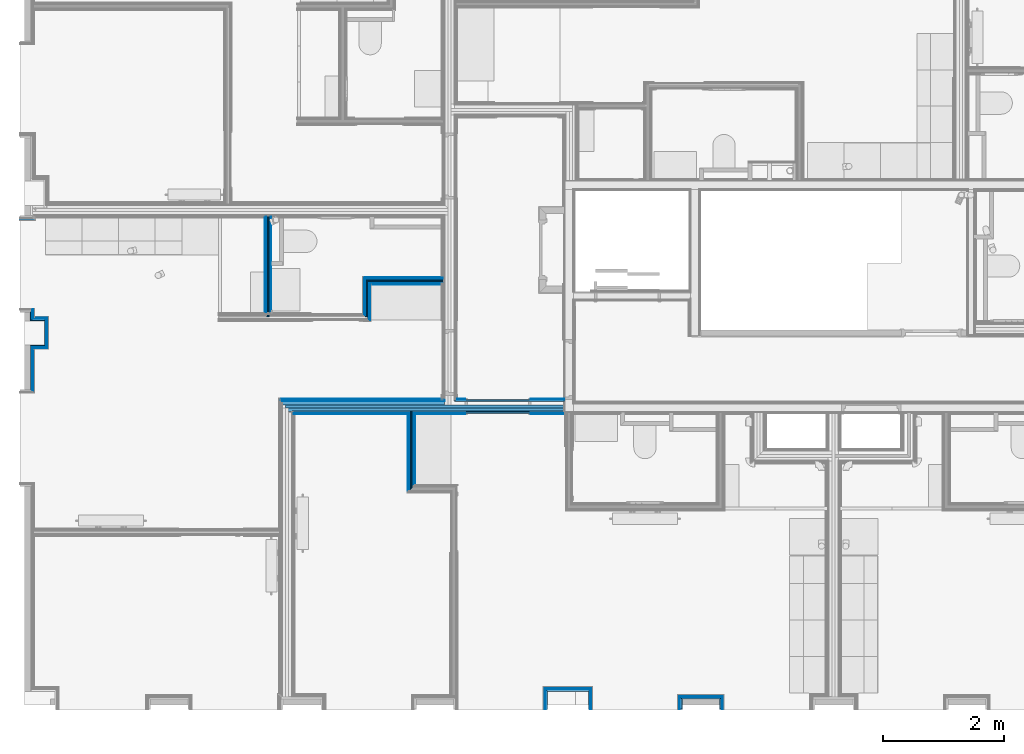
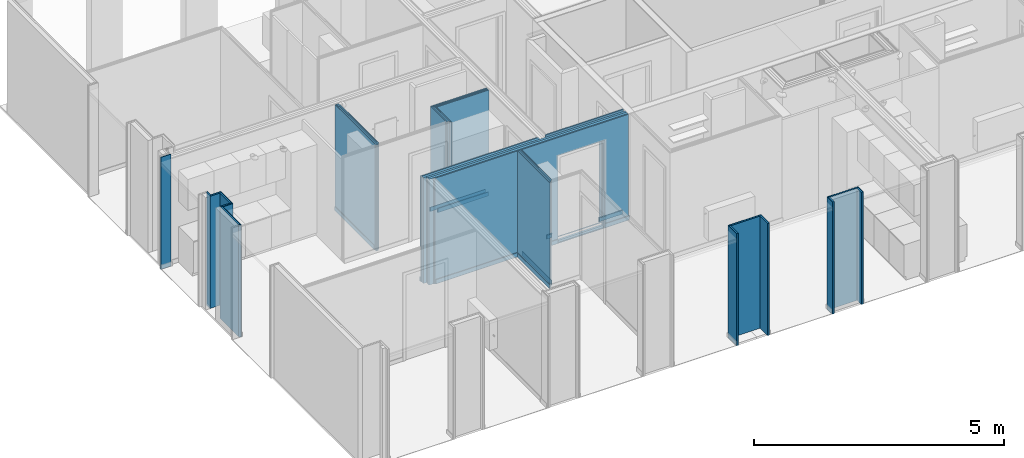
# One storey, part 9 of 85: 61 building element parts, 1 opening, 17 elements without a shape of their own.
"""IFC2X3 building model written with IfcOpenShell, lengths in metres."""

import ifcopenshell
import ifcopenshell.guid

model = None  # the IFC model being written
_history = None  # IfcOwnerHistory: only IFC2X3 demands one
_inside = {}  # id of a spatial element -> (the spatial element, [elements in it])
_under = {}  # id of a project, library or spatial element -> (it, [spatial elements below it])
_declared = {}  # id of a project -> (the project, [libraries it declares])
_typed = {}  # id of a type object -> (the type object, [elements of that type])
_made_of = {}  # id of a material, layer set ... -> (it, [elements and type objects made of it])


def new_model(schema):
    """Start an empty IFC model of exactly this schema.

    Asked for "IFC4X3", IfcOpenShell would pick the latest addendum, in which some entities
    have other attributes; the version numbers below select the first issue.
    IFC2X3 requires an IfcOwnerHistory on every rooted entity: one is made here for all.
    """
    global model, _history
    if schema == "IFC4X3":
        model = ifcopenshell.file(schema_version=(4, 3, 0, 0))
    else:
        model = ifcopenshell.file(schema=schema)
    _inside.clear()
    _under.clear()
    _declared.clear()
    _typed.clear()
    _made_of.clear()
    _history = None
    if model.schema == "IFC2X3":
        org = make("IfcOrganization", Name="unknown")
        user = make(
            "IfcPersonAndOrganization",
            ThePerson=make("IfcPerson", FamilyName="unknown"),
            TheOrganization=org,
        )
        app = make(
            "IfcApplication",
            ApplicationDeveloper=org,
            Version="unknown",
            ApplicationFullName="unknown",
            ApplicationIdentifier="unknown",
        )
        _history = make(
            "IfcOwnerHistory",
            OwningUser=user,
            OwningApplication=app,
            ChangeAction="ADDED",
            CreationDate=0,
        )
    return model


def make(cls, **values):
    """One entity of the class cls with the attributes given. An attribute that is None is left unset."""
    return model.create_entity(
        cls, **{name: value for name, value in values.items() if value is not None}
    )


def entity(cls, *values):
    """Any entity or typed value of the class cls, its attributes in the order of the schema. None: left unset."""
    e = model.create_entity(cls)
    for i, value in enumerate(values):
        if value is not None:
            e[i] = value
    return e


def rooted(cls, **values):
    """An entity with a GlobalId (a new one), such as an element, a storey or a relation."""
    return make(cls, GlobalId=ifcopenshell.guid.new(), OwnerHistory=_history, **values)


def si_unit(unit_type, name, prefix=None):
    """IfcSIUnit, for example si_unit("LENGTHUNIT", "METRE", prefix="MILLI")."""
    return make("IfcSIUnit", UnitType=unit_type, Prefix=prefix, Name=name)


def converted_unit(unit_type, name, factor, base, dimensions=None, offset=None):
    """IfcConversionBasedUnit, such as the inch: factor (a typed value) times the base unit."""
    return make(
        "IfcConversionBasedUnit"
        if offset is None
        else "IfcConversionBasedUnitWithOffset",
        ConversionOffset=offset,
        Dimensions=None
        if dimensions is None
        else entity("IfcDimensionalExponents", *dimensions),
        UnitType=unit_type,
        Name=name,
        ConversionFactor=make(
            "IfcMeasureWithUnit", ValueComponent=factor, UnitComponent=base
        ),
    )


def derived_unit(unit_type, elements):
    """IfcDerivedUnit: a product of units, each with its exponent."""
    return make(
        "IfcDerivedUnit",
        Elements=[
            make("IfcDerivedUnitElement", Unit=unit, Exponent=power)
            for unit, power in elements
        ],
        UnitType=unit_type,
    )


def money_unit(currency):
    """IfcMonetaryUnit."""
    return make("IfcMonetaryUnit", Currency=currency)


def assignment(units):
    """IfcUnitAssignment: the units of a project."""
    return None if units is None else make("IfcUnitAssignment", Units=units)


def point(xyz):
    """IfcCartesianPoint."""
    return None if xyz is None else make("IfcCartesianPoint", Coordinates=xyz)


def direction(xyz):
    """IfcDirection."""
    return None if xyz is None else make("IfcDirection", DirectionRatios=xyz)


def frame(location, z_axis=None, x_axis=None):
    """IfcAxis2Placement3D, a coordinate frame: its origin and axes. An axis left out is left unset."""
    return make(
        "IfcAxis2Placement3D",
        Location=point(location),
        Axis=direction(z_axis),
        RefDirection=direction(x_axis),
    )


def frame_2d(location, x_axis=None):
    """IfcAxis2Placement2D, a coordinate frame in the plane: its origin and x axis."""
    return make(
        "IfcAxis2Placement2D", Location=point(location), RefDirection=direction(x_axis)
    )


def origin_with_axes():
    """The frame at (0, 0, 0) with the z axis (0, 0, 1) and the x axis (1, 0, 0) written out."""
    return frame((0.0, 0.0, 0.0), z_axis=(0.0, 0.0, 1.0), x_axis=(1.0, 0.0, 0.0))


def place(relative_to, where):
    """IfcLocalPlacement: puts the frame where relative to a parent placement (None: the world)."""
    return make(
        "IfcLocalPlacement", PlacementRelTo=relative_to, RelativePlacement=where
    )


def context(
    kind, dimensions, precision=None, world=None, true_north=None, identifier=None
):
    """IfcGeometricRepresentationContext, for example the 3D "Model" context."""
    return make(
        "IfcGeometricRepresentationContext",
        ContextIdentifier=identifier,
        ContextType=kind,
        CoordinateSpaceDimension=dimensions,
        Precision=precision,
        WorldCoordinateSystem=world,
        TrueNorth=true_north,
    )


def subcontext(parent, identifier, kind, view, scale=None):
    """IfcGeometricRepresentationSubContext, for example "Body" below "Model"."""
    return make(
        "IfcGeometricRepresentationSubContext",
        ContextIdentifier=identifier,
        ContextType=kind,
        ParentContext=parent,
        TargetScale=scale,
        TargetView=view,
    )


def project(units=None, contexts=None):
    """IfcProject with its units and contexts."""
    return rooted(
        "IfcProject",
        Name="project",
        RepresentationContexts=contexts,
        UnitsInContext=assignment(units),
    )


def spatial(cls, under=None, at=None, **own):
    """A site, building, storey or space (cls), placed at a placement, below another one or the project."""
    s = rooted(cls, ObjectPlacement=at, **own)
    if under is not None:
        _under.setdefault(under.id(), (under, []))[1].append(s)
    return s


def polyline(points):
    """IfcPolyline through the points."""
    return make("IfcPolyline", Points=[point(p) for p in points])


def profile(cls, at=None, kind="AREA", **sizes):
    """A parametric profile (cls). Its sizes go by their IFC names, for example OverallWidth=200.0."""
    return make(cls, ProfileType=kind, Position=at, **sizes)


def rectangle(**sizes):
    """IfcRectangleProfileDef."""
    return profile("IfcRectangleProfileDef", **sizes)


def outline(outer, holes=None, kind="AREA"):
    """IfcArbitraryClosedProfileDef: a profile drawn as a closed curve; with holes, ...WithVoids."""
    if holes is None:
        return make("IfcArbitraryClosedProfileDef", ProfileType=kind, OuterCurve=outer)
    return make(
        "IfcArbitraryProfileDefWithVoids",
        ProfileType=kind,
        OuterCurve=outer,
        InnerCurves=holes,
    )


def extrude(swept, where, along, depth):
    """IfcExtrudedAreaSolid: the profile swept, set in the frame where, extruded along a direction by depth."""
    return make(
        "IfcExtrudedAreaSolid",
        SweptArea=swept,
        Position=where,
        ExtrudedDirection=direction(along),
        Depth=depth,
    )


def shape(context_of_items, identifier, shape_type, items):
    """IfcShapeRepresentation: the items that make up one representation, for example the "Body"."""
    return make(
        "IfcShapeRepresentation",
        ContextOfItems=context_of_items,
        RepresentationIdentifier=identifier,
        RepresentationType=shape_type,
        Items=items,
    )


def material(Name=None, Category=None):
    """IfcMaterial."""
    return make("IfcMaterial", Name=Name, Category=Category)


def made_of(thing, what):
    """Note that an element or type object is made of a material, layer set ...; save() writes the relation."""
    if what is not None:
        _made_of.setdefault(what.id(), (what, []))[1].append(thing)
    return thing


def type_object(cls, material=None, **own):
    """A type object (cls), such as IfcWallType, which elements share."""
    return made_of(rooted(cls, **own), material)


def element(
    cls,
    number,
    at=None,
    inside=None,
    cuts=None,
    type_object=None,
    material=None,
    context=None,
    identifier="Body",
    shape_type=None,
    held_by="IfcProductDefinitionShape",
    body=None,
    shapes=None,
    **own,
):
    """One element of the class cls, such as IfcWall. Its Tag is "e" and its number.

    at: its placement. inside: the storey or other place that contains it. cuts: it is an
    opening in that element (IfcRelVoidsElement). A single representation is given by context,
    identifier, shape_type and body (its items); several are given by shapes. held_by: the class
    of the entity that holds the representations. save() writes the other relations.
    """
    e = rooted(cls, Tag="e%d" % number, ObjectPlacement=at, **own)
    if body is not None:
        shapes = [shape(context, identifier, shape_type, body)]
    if shapes is not None:
        e.Representation = make(held_by, Representations=shapes)
    if inside is not None:
        _inside.setdefault(inside.id(), (inside, []))[1].append(e)
    if cuts is not None:
        rooted(
            "IfcRelVoidsElement", RelatingBuildingElement=cuts, RelatedOpeningElement=e
        )
    if type_object is not None:
        _typed.setdefault(type_object.id(), (type_object, []))[1].append(e)
    return made_of(e, material)


def aggregate(whole, parts):
    """IfcRelAggregates: a whole, such as a stair, and the parts it consists of."""
    return rooted("IfcRelAggregates", RelatingObject=whole, RelatedObjects=parts)


def save(model, path):
    """Write the relations noted so far, then the file.

    IfcRelAggregates (storeys below a building ...), IfcRelContainedInSpatialStructure (elements
    in a storey), IfcRelDefinesByType, IfcRelAssociatesMaterial and IfcRelDeclares: one each for
    every whole, place, type object, material and project.
    """
    for whole, parts in _under.values():
        aggregate(whole, parts)
    for where, things in _inside.values():
        rooted(
            "IfcRelContainedInSpatialStructure",
            RelatedElements=things,
            RelatingStructure=where,
        )
    for kind, things in _typed.values():
        rooted("IfcRelDefinesByType", RelatedObjects=things, RelatingType=kind)
    for what, things in _made_of.values():
        rooted("IfcRelAssociatesMaterial", RelatedObjects=things, RelatingMaterial=what)
    for by, libraries in _declared.values():
        rooted("IfcRelDeclares", RelatingContext=by, RelatedDefinitions=libraries)
    model.write(path)


model = new_model("IFC2X3")

# Units and contexts
model_context = context("Model", 3, precision=1e-05, world=origin_with_axes(), true_north=direction((0.0, 1.0)))
body_context = subcontext(model_context, "Body", "Model", "MODEL_VIEW", scale=1.0)
ifc_project = project(units=[si_unit("LENGTHUNIT", "METRE"), si_unit("AREAUNIT", "SQUARE_METRE"), si_unit("VOLUMEUNIT", "CUBIC_METRE"), si_unit("ABSORBEDDOSEUNIT", "GRAY"), si_unit("AMOUNTOFSUBSTANCEUNIT", "MOLE"), si_unit("DOSEEQUIVALENTUNIT", "SIEVERT"), si_unit("ELECTRICCAPACITANCEUNIT", "FARAD"), si_unit("ELECTRICCHARGEUNIT", "COULOMB"), si_unit("ELECTRICCONDUCTANCEUNIT", "SIEMENS"), si_unit("ELECTRICCURRENTUNIT", "AMPERE"), si_unit("ELECTRICRESISTANCEUNIT", "OHM"), si_unit("ELECTRICVOLTAGEUNIT", "VOLT"), si_unit("ENERGYUNIT", "JOULE"), si_unit("FORCEUNIT", "NEWTON"), si_unit("FREQUENCYUNIT", "HERTZ"), si_unit("ILLUMINANCEUNIT", "LUX"), si_unit("INDUCTANCEUNIT", "HENRY"), si_unit("LUMINOUSFLUXUNIT", "LUMEN"), si_unit("LUMINOUSINTENSITYUNIT", "CANDELA"), si_unit("MAGNETICFLUXDENSITYUNIT", "TESLA"), si_unit("MAGNETICFLUXUNIT", "WEBER"), si_unit("MASSUNIT", "GRAM"), converted_unit("PLANEANGLEUNIT", "degree", entity("IfcReal", 0.0174532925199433), si_unit("PLANEANGLEUNIT", "RADIAN"), dimensions=[0, 0, 0, 0, 0, 0, 0]), si_unit("POWERUNIT", "WATT"), si_unit("PRESSUREUNIT", "PASCAL"), si_unit("RADIOACTIVITYUNIT", "BECQUEREL"), si_unit("SOLIDANGLEUNIT", "STERADIAN"), si_unit("THERMODYNAMICTEMPERATUREUNIT", "KELVIN"), si_unit("TIMEUNIT", "SECOND"), derived_unit("ACCELERATIONUNIT", [(si_unit("LENGTHUNIT", "METRE"), 1), (si_unit("TIMEUNIT", "SECOND"), -2)]), derived_unit("ANGULARVELOCITYUNIT", [(converted_unit("PLANEANGLEUNIT", "degree", entity("IfcReal", 0.0174532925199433), si_unit("PLANEANGLEUNIT", "RADIAN"), dimensions=[0, 0, 0, 0, 0, 0, 0]), 1), (si_unit("TIMEUNIT", "SECOND"), -1)]), derived_unit("CURVATUREUNIT", [(converted_unit("PLANEANGLEUNIT", "degree", entity("IfcReal", 0.0174532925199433), si_unit("PLANEANGLEUNIT", "RADIAN"), dimensions=[0, 0, 0, 0, 0, 0, 0]), 1), (si_unit("LENGTHUNIT", "METRE"), -1)]), derived_unit("DYNAMICVISCOSITYUNIT", [(si_unit("PRESSUREUNIT", "PASCAL"), 1), (si_unit("TIMEUNIT", "SECOND"), 1)]), derived_unit("HEATFLUXDENSITYUNIT", [(si_unit("POWERUNIT", "WATT"), 1), (si_unit("LENGTHUNIT", "METRE"), -2)]), derived_unit("HEATINGVALUEUNIT", [(si_unit("ENERGYUNIT", "JOULE"), 1), (si_unit("MASSUNIT", "GRAM"), -1)]), derived_unit("INTEGERCOUNTRATEUNIT", [(si_unit("TIMEUNIT", "SECOND"), -1)]), derived_unit("IONCONCENTRATIONUNIT", [(si_unit("MASSUNIT", "GRAM"), 1), (si_unit("VOLUMEUNIT", "CUBIC_METRE"), -1)]), derived_unit("ISOTHERMALMOISTURECAPACITYUNIT", [(si_unit("VOLUMEUNIT", "CUBIC_METRE"), 1), (si_unit("MASSUNIT", "GRAM"), -1)]), derived_unit("KINEMATICVISCOSITYUNIT", [(si_unit("AREAUNIT", "SQUARE_METRE"), 1), (si_unit("TIMEUNIT", "SECOND"), -1)]), derived_unit("LINEARFORCEUNIT", [(si_unit("FORCEUNIT", "NEWTON"), 1), (si_unit("LENGTHUNIT", "METRE"), -1)]), derived_unit("LINEARMOMENTUNIT", [(si_unit("FORCEUNIT", "NEWTON"), 1), (si_unit("LENGTHUNIT", "METRE"), -1)]), derived_unit("LINEARSTIFFNESSUNIT", [(si_unit("FORCEUNIT", "NEWTON"), 1), (si_unit("LENGTHUNIT", "METRE"), -1)]), derived_unit("LINEARVELOCITYUNIT", [(si_unit("LENGTHUNIT", "METRE"), 1), (si_unit("TIMEUNIT", "SECOND"), -1)]), derived_unit("LUMINOUSINTENSITYDISTRIBUTIONUNIT", [(si_unit("LUMINOUSINTENSITYUNIT", "CANDELA"), 1), (si_unit("LUMINOUSFLUXUNIT", "LUMEN"), -1)]), derived_unit("MASSDENSITYUNIT", [(si_unit("MASSUNIT", "GRAM"), 1), (si_unit("VOLUMEUNIT", "CUBIC_METRE"), -1)]), derived_unit("MASSFLOWRATEUNIT", [(si_unit("MASSUNIT", "GRAM"), 1), (si_unit("TIMEUNIT", "SECOND"), -1)]), derived_unit("MASSPERLENGTHUNIT", [(si_unit("MASSUNIT", "GRAM"), 1), (si_unit("LENGTHUNIT", "METRE"), -1)]), derived_unit("MODULUSOFELASTICITYUNIT", [(si_unit("FORCEUNIT", "NEWTON"), 1), (si_unit("AREAUNIT", "SQUARE_METRE"), -1)]), derived_unit("MODULUSOFLINEARSUBGRADEREACTIONUNIT", [(si_unit("FORCEUNIT", "NEWTON"), 1), (si_unit("LENGTHUNIT", "METRE"), -2)]), derived_unit("MODULUSOFROTATIONALSUBGRADEREACTIONUNIT", [(si_unit("FORCEUNIT", "NEWTON"), 1), (si_unit("LENGTHUNIT", "METRE"), 1)]), derived_unit("MODULUSOFSUBGRADEREACTIONUNIT", [(si_unit("FORCEUNIT", "NEWTON"), 1), (si_unit("VOLUMEUNIT", "CUBIC_METRE"), -1)]), derived_unit("MOISTUREDIFFUSIVITYUNIT", [(si_unit("VOLUMEUNIT", "CUBIC_METRE"), 1), (si_unit("TIMEUNIT", "SECOND"), -1)]), derived_unit("MOLECULARWEIGHTUNIT", [(si_unit("MASSUNIT", "GRAM"), 1), (si_unit("AMOUNTOFSUBSTANCEUNIT", "MOLE"), -1)]), derived_unit("PLANARFORCEUNIT", [(si_unit("FORCEUNIT", "NEWTON"), 1), (si_unit("LENGTHUNIT", "METRE"), -2)]), derived_unit("ROTATIONALFREQUENCYUNIT", [(si_unit("TIMEUNIT", "SECOND"), -1)]), derived_unit("ROTATIONALMASSUNIT", [(si_unit("MASSUNIT", "GRAM"), 1), (si_unit("LENGTHUNIT", "METRE"), 2)]), derived_unit("ROTATIONALSTIFFNESSUNIT", [(si_unit("FORCEUNIT", "NEWTON"), 1), (si_unit("LENGTHUNIT", "METRE"), 1), (converted_unit("PLANEANGLEUNIT", "degree", entity("IfcReal", 0.0174532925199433), si_unit("PLANEANGLEUNIT", "RADIAN"), dimensions=[0, 0, 0, 0, 0, 0, 0]), -1)]), derived_unit("SECTIONAREAINTEGRALUNIT", [(si_unit("LENGTHUNIT", "METRE"), 5)]), derived_unit("SECTIONMODULUSUNIT", [(si_unit("LENGTHUNIT", "METRE"), 3)]), derived_unit("SHEARMODULUSUNIT", [(si_unit("FORCEUNIT", "NEWTON"), 1), (si_unit("AREAUNIT", "SQUARE_METRE"), -1)]), derived_unit("SOUNDPOWERUNIT", [(si_unit("ENERGYUNIT", "JOULE"), 1), (si_unit("TIMEUNIT", "SECOND"), -1)]), derived_unit("SPECIFICHEATCAPACITYUNIT", [(si_unit("FORCEUNIT", "NEWTON"), 1), (si_unit("MASSUNIT", "GRAM"), -1), (si_unit("THERMODYNAMICTEMPERATUREUNIT", "KELVIN"), -1)]), derived_unit("TEMPERATUREGRADIENTUNIT", [(si_unit("THERMODYNAMICTEMPERATUREUNIT", "KELVIN"), 1), (si_unit("LENGTHUNIT", "METRE"), -1)]), derived_unit("THERMALADMITTANCEUNIT", [(si_unit("POWERUNIT", "WATT"), 1), (si_unit("AREAUNIT", "SQUARE_METRE"), -1), (si_unit("THERMODYNAMICTEMPERATUREUNIT", "KELVIN"), -1)]), derived_unit("THERMALCONDUCTANCEUNIT", [(si_unit("POWERUNIT", "WATT"), 1), (si_unit("LENGTHUNIT", "METRE"), -1), (si_unit("THERMODYNAMICTEMPERATUREUNIT", "KELVIN"), -1)]), derived_unit("THERMALEXPANSIONCOEFFICIENTUNIT", [(si_unit("THERMODYNAMICTEMPERATUREUNIT", "KELVIN"), -1)]), derived_unit("THERMALRESISTANCEUNIT", [(si_unit("AREAUNIT", "SQUARE_METRE"), 1), (si_unit("POWERUNIT", "WATT"), -1)]), derived_unit("THERMALTRANSMITTANCEUNIT", [(si_unit("POWERUNIT", "WATT"), 1), (si_unit("AREAUNIT", "SQUARE_METRE"), -1), (si_unit("THERMODYNAMICTEMPERATUREUNIT", "KELVIN"), -1)]), derived_unit("TORQUEUNIT", [(si_unit("FORCEUNIT", "NEWTON"), 1), (si_unit("LENGTHUNIT", "METRE"), 1)]), derived_unit("VAPORPERMEABILITYUNIT", [(si_unit("MASSUNIT", "GRAM"), 1), (si_unit("TIMEUNIT", "SECOND"), -1)]), derived_unit("VOLUMETRICFLOWRATEUNIT", [(si_unit("VOLUMEUNIT", "CUBIC_METRE"), 1), (si_unit("TIMEUNIT", "SECOND"), -1)]), derived_unit("WARPINGCONSTANTUNIT", [(si_unit("LENGTHUNIT", "METRE"), 6)]), derived_unit("WARPINGMOMENTUNIT", [(si_unit("FORCEUNIT", "NEWTON"), 1), (si_unit("LENGTHUNIT", "METRE"), 2)]), money_unit("GBP")], contexts=[model_context])

# Site, building, storey
site_placement = place(None, origin_with_axes())
site = spatial("IfcSite", under=ifc_project, at=site_placement, Name="Site", CompositionType="ELEMENT")
building_placement = place(site_placement, origin_with_axes())
building = spatial("IfcBuilding", under=site, at=building_placement, Name="Building01", CompositionType="ELEMENT")
storey_placement = place(building_placement, frame((0.0, 0.0, 12.13), z_axis=(0.0, 0.0, 1.0), x_axis=(1.0, 0.0, 0.0)))
storey = spatial("IfcBuildingStorey", under=building, at=storey_placement, Name="3F", CompositionType="ELEMENT", Elevation=12.13)

# Wall, building element parts
wall_type_1 = type_object("IfcWallType", Name="SHE_A-Walls_Type06d_ExternalWallInsulation_48mm", PredefinedType="NOTDEFINED")
wall_1_placement = place(storey_placement, frame((0.27, 6.64418, 0.0), z_axis=(0.0, 0.0, 1.0), x_axis=(0.0, -1.0, 0.0)))
wall_1 = element("IfcWall", 1, at=wall_1_placement, inside=storey, type_object=wall_type_1, Name="6D", ObjectType="SHE_A-Walls_Type06d_ExternalWallInsulation_48mm")
ifc_material_1 = material(Name="A_BSUK_Insulation")
placement_1 = place(wall_1_placement, origin_with_axes())
building_element_part_1 = element("IfcBuildingElementPart", 2, at=placement_1, material=ifc_material_1, Name="1", context=body_context, shape_type="SweptSolid", body=[
    extrude(outline(polyline([(0.10818, 0.036), (-0.036, 0.036), (0.0, 0.0), (0.14418, 0.0), (0.10818, 0.036)])), origin_with_axes(), (0.0, 0.0, 1.0), 2.74),
])
ifc_material_2 = material(Name="A_BSUK_WallInternal_Finishes_Plasterboard")
building_element_part_2 = element("IfcBuildingElementPart", 3, at=placement_1, material=ifc_material_2, Name="2", context=body_context, shape_type="SweptSolid", body=[
    extrude(outline(polyline([(0.09618, 0.048), (-0.048, 0.048), (-0.035, 0.035), (0.10918, 0.035), (0.09618, 0.048)])), origin_with_axes(), (0.0, 0.0, 1.0), 2.74),
])
aggregate(wall_1, [building_element_part_1, building_element_part_2])

wall_2_placement = place(storey_placement, frame((0.27, 6.5, 0.0), z_axis=(0.0, 0.0, 1.0), x_axis=(1.0, 0.0, 0.0)))
wall_2 = element("IfcWall", 4, at=wall_2_placement, inside=storey, type_object=wall_type_1, Name="6D", ObjectType="SHE_A-Walls_Type06d_ExternalWallInsulation_48mm")
placement_2 = place(wall_2_placement, origin_with_axes())
building_element_part_3 = element("IfcBuildingElementPart", 5, at=placement_2, material=ifc_material_1, Name="1", context=body_context, shape_type="SweptSolid", body=[
    extrude(outline(polyline([(0.266, 0.036), (0.036, 0.036), (0.0, 0.0), (0.23, 0.0), (0.266, 0.036)])), origin_with_axes(), (0.0, 0.0, 1.0), 2.74),
])
building_element_part_4 = element("IfcBuildingElementPart", 6, at=placement_2, material=ifc_material_2, Name="2", context=body_context, shape_type="SweptSolid", body=[
    extrude(outline(polyline([(0.278, 0.048), (0.048, 0.048), (0.035, 0.035), (0.265, 0.035), (0.278, 0.048)])), origin_with_axes(), (0.0, 0.0, 1.0), 2.74),
])
aggregate(wall_2, [building_element_part_3, building_element_part_4])

wall_3_placement = place(storey_placement, frame((0.5, 6.5, 0.0), z_axis=(0.0, 0.0, 1.0), x_axis=(0.0, -1.0, 0.0)))
wall_3 = element("IfcWall", 7, at=wall_3_placement, inside=storey, type_object=wall_type_1, Name="6D", ObjectType="SHE_A-Walls_Type06d_ExternalWallInsulation_48mm")
placement_3 = place(wall_3_placement, origin_with_axes())
building_element_part_5 = element("IfcBuildingElementPart", 8, at=placement_3, material=ifc_material_1, Name="1", context=body_context, shape_type="SweptSolid", body=[
    extrude(outline(polyline([(0.436, 0.036), (-0.036, 0.036), (0.0, 0.0), (0.4, 0.0), (0.436, 0.036)])), origin_with_axes(), (0.0, 0.0, 1.0), 2.74),
])
building_element_part_6 = element("IfcBuildingElementPart", 9, at=placement_3, material=ifc_material_2, Name="2", context=body_context, shape_type="SweptSolid", body=[
    extrude(outline(polyline([(0.448, 0.048), (-0.048, 0.048), (-0.035, 0.035), (0.435, 0.035), (0.448, 0.048)])), origin_with_axes(), (0.0, 0.0, 1.0), 2.74),
])
aggregate(wall_3, [building_element_part_5, building_element_part_6])

wall_4_placement = place(storey_placement, frame((0.5, 6.1, 0.0), z_axis=(0.0, 0.0, 1.0), x_axis=(-1.0, 0.0, 0.0)))
wall_4 = element("IfcWall", 10, at=wall_4_placement, inside=storey, type_object=wall_type_1, Name="6D", ObjectType="SHE_A-Walls_Type06d_ExternalWallInsulation_48mm")
placement_4 = place(wall_4_placement, origin_with_axes())
building_element_part_7 = element("IfcBuildingElementPart", 11, at=placement_4, material=ifc_material_1, Name="1", context=body_context, shape_type="SweptSolid", body=[
    extrude(outline(polyline([(0.194, 0.036), (-0.036, 0.036), (0.0, 0.0), (0.23, 0.0), (0.194, 0.036)])), origin_with_axes(), (0.0, 0.0, 1.0), 2.74),
])
building_element_part_8 = element("IfcBuildingElementPart", 12, at=placement_4, material=ifc_material_2, Name="2", context=body_context, shape_type="SweptSolid", body=[
    extrude(outline(polyline([(0.182, 0.048), (-0.048, 0.048), (-0.035, 0.035), (0.195, 0.035), (0.182, 0.048)])), origin_with_axes(), (0.0, 0.0, 1.0), 2.74),
])
aggregate(wall_4, [building_element_part_7, building_element_part_8])

wall_5_placement = place(storey_placement, frame((0.27, 6.1, 0.0), z_axis=(0.0, 0.0, 1.0), x_axis=(0.0, -1.0, 0.0)))
wall_5 = element("IfcWall", 13, at=wall_5_placement, inside=storey, type_object=wall_type_1, Name="6D", ObjectType="SHE_A-Walls_Type06d_ExternalWallInsulation_48mm")
placement_5 = place(wall_5_placement, origin_with_axes())
building_element_part_9 = element("IfcBuildingElementPart", 14, at=placement_5, material=ifc_material_1, Name="1", context=body_context, shape_type="SweptSolid", body=[
    extrude(outline(polyline([(0.773, 0.036), (0.036, 0.036), (0.0, 0.0), (0.737, 0.0), (0.773, 0.036)])), origin_with_axes(), (0.0, 0.0, 1.0), 2.74),
])
building_element_part_10 = element("IfcBuildingElementPart", 15, at=placement_5, material=ifc_material_2, Name="2", context=body_context, shape_type="SweptSolid", body=[
    extrude(outline(polyline([(0.785, 0.048), (0.048, 0.048), (0.035, 0.035), (0.772, 0.035), (0.785, 0.048)])), origin_with_axes(), (0.0, 0.0, 1.0), 2.74),
])
aggregate(wall_5, [building_element_part_9, building_element_part_10])

wall_6_placement = place(storey_placement, frame((8.79, 0.1, 0.0), z_axis=(0.0, 0.0, 1.0), x_axis=(0.0, 1.0, 0.0)))
wall_6 = element("IfcWall", 16, at=wall_6_placement, inside=storey, type_object=wall_type_1, Name="6D", ObjectType="SHE_A-Walls_Type06d_ExternalWallInsulation_48mm")
placement_6 = place(wall_6_placement, origin_with_axes())
building_element_part_11 = element("IfcBuildingElementPart", 17, at=placement_6, material=ifc_material_1, Name="1", context=body_context, shape_type="SweptSolid", body=[
    extrude(outline(polyline([(0.336, 0.036), (0.0, 0.036), (0.0, 0.0), (0.3, 0.0), (0.336, 0.036)])), origin_with_axes(), (0.0, 0.0, 1.0), 2.74),
])
building_element_part_12 = element("IfcBuildingElementPart", 18, at=placement_6, material=ifc_material_2, Name="2", context=body_context, shape_type="SweptSolid", body=[
    extrude(outline(polyline([(0.348, 0.048), (0.0, 0.048), (0.0, 0.035), (0.335, 0.035), (0.348, 0.048)])), origin_with_axes(), (0.0, 0.0, 1.0), 2.74),
])
aggregate(wall_6, [building_element_part_11, building_element_part_12])

wall_7_placement = place(storey_placement, frame((8.79, 0.4, 0.0), z_axis=(0.0, 0.0, 1.0), x_axis=(1.0, 0.0, 0.0)))
wall_7 = element("IfcWall", 19, at=wall_7_placement, inside=storey, type_object=wall_type_1, Name="6D", ObjectType="SHE_A-Walls_Type06d_ExternalWallInsulation_48mm")
placement_7 = place(wall_7_placement, origin_with_axes())
building_element_part_13 = element("IfcBuildingElementPart", 20, at=placement_7, material=ifc_material_1, Name="1", context=body_context, shape_type="SweptSolid", body=[
    extrude(outline(polyline([(0.706, 0.036), (-0.036, 0.036), (0.0, 0.0), (0.67, 0.0), (0.706, 0.036)])), origin_with_axes(), (0.0, 0.0, 1.0), 2.74),
])
building_element_part_14 = element("IfcBuildingElementPart", 21, at=placement_7, material=ifc_material_2, Name="2", context=body_context, shape_type="SweptSolid", body=[
    extrude(outline(polyline([(0.718, 0.048), (-0.048, 0.048), (-0.035, 0.035), (0.705, 0.035), (0.718, 0.048)])), origin_with_axes(), (0.0, 0.0, 1.0), 2.74),
])
aggregate(wall_7, [building_element_part_13, building_element_part_14])

wall_8_placement = place(storey_placement, frame((9.46, 0.4, 0.0), z_axis=(0.0, 0.0, 1.0), x_axis=(0.0, -1.0, 0.0)))
wall_8 = element("IfcWall", 22, at=wall_8_placement, inside=storey, type_object=wall_type_1, Name="6D", ObjectType="SHE_A-Walls_Type06d_ExternalWallInsulation_48mm")
placement_8 = place(wall_8_placement, origin_with_axes())
building_element_part_15 = element("IfcBuildingElementPart", 23, at=placement_8, material=ifc_material_1, Name="1", context=body_context, shape_type="SweptSolid", body=[
    extrude(outline(polyline([(-0.036, 0.036), (0.0, 0.0), (0.3, 0.0), (0.3, 0.036), (-0.036, 0.036)])), origin_with_axes(), (0.0, 0.0, 1.0), 2.74),
])
building_element_part_16 = element("IfcBuildingElementPart", 24, at=placement_8, material=ifc_material_2, Name="2", context=body_context, shape_type="SweptSolid", body=[
    extrude(outline(polyline([(-0.048, 0.048), (-0.035, 0.035), (0.3, 0.035), (0.3, 0.048), (-0.048, 0.048)])), origin_with_axes(), (0.0, 0.0, 1.0), 2.74),
])
aggregate(wall_8, [building_element_part_15, building_element_part_16])

wall_9_placement = place(storey_placement, frame((11.003, 0.1, 0.0), z_axis=(0.0, 0.0, 1.0), x_axis=(0.0, 1.0, 0.0)))
wall_9 = element("IfcWall", 25, at=wall_9_placement, inside=storey, type_object=wall_type_1, Name="6D", ObjectType="SHE_A-Walls_Type06d_ExternalWallInsulation_48mm")
placement_9 = place(wall_9_placement, origin_with_axes())
building_element_part_17 = element("IfcBuildingElementPart", 26, at=placement_9, material=ifc_material_1, Name="1", context=body_context, shape_type="SweptSolid", body=[
    extrude(outline(polyline([(0.206, 0.036), (0.0, 0.036), (0.0, 0.0), (0.17, 0.0), (0.206, 0.036)])), origin_with_axes(), (0.0, 0.0, 1.0), 2.74),
])
building_element_part_18 = element("IfcBuildingElementPart", 27, at=placement_9, material=ifc_material_2, Name="2", context=body_context, shape_type="SweptSolid", body=[
    extrude(outline(polyline([(0.218, 0.048), (0.0, 0.048), (0.0, 0.035), (0.205, 0.035), (0.218, 0.048)])), origin_with_axes(), (0.0, 0.0, 1.0), 2.74),
])
aggregate(wall_9, [building_element_part_17, building_element_part_18])

wall_10_placement = place(storey_placement, frame((11.003, 0.27, 0.0), z_axis=(0.0, 0.0, 1.0), x_axis=(1.0, 0.0, 0.0)))
wall_10 = element("IfcWall", 28, at=wall_10_placement, inside=storey, type_object=wall_type_1, Name="6D", ObjectType="SHE_A-Walls_Type06d_ExternalWallInsulation_48mm")
placement_10 = place(wall_10_placement, origin_with_axes())
building_element_part_19 = element("IfcBuildingElementPart", 29, at=placement_10, material=ifc_material_1, Name="1", context=body_context, shape_type="SweptSolid", body=[
    extrude(outline(polyline([(0.66, 0.036), (-0.036, 0.036), (0.0, 0.0), (0.624, 0.0), (0.66, 0.036)])), origin_with_axes(), (0.0, 0.0, 1.0), 2.74),
])
building_element_part_20 = element("IfcBuildingElementPart", 30, at=placement_10, material=ifc_material_2, Name="2", context=body_context, shape_type="SweptSolid", body=[
    extrude(outline(polyline([(0.672, 0.048), (-0.048, 0.048), (-0.035, 0.035), (0.659, 0.035), (0.672, 0.048)])), origin_with_axes(), (0.0, 0.0, 1.0), 2.74),
])
aggregate(wall_10, [building_element_part_19, building_element_part_20])

wall_11_placement = place(storey_placement, frame((11.627, 0.27, 0.0), z_axis=(0.0, 0.0, 1.0), x_axis=(0.0, -1.0, 0.0)))
wall_11 = element("IfcWall", 31, at=wall_11_placement, inside=storey, type_object=wall_type_1, Name="6D", ObjectType="SHE_A-Walls_Type06d_ExternalWallInsulation_48mm")
placement_11 = place(wall_11_placement, origin_with_axes())
building_element_part_21 = element("IfcBuildingElementPart", 32, at=placement_11, material=ifc_material_1, Name="1", context=body_context, shape_type="SweptSolid", body=[
    extrude(outline(polyline([(-0.036, 0.036), (0.0, 0.0), (0.17, 0.0), (0.17, 0.036), (-0.036, 0.036)])), origin_with_axes(), (0.0, 0.0, 1.0), 2.74),
])
building_element_part_22 = element("IfcBuildingElementPart", 33, at=placement_11, material=ifc_material_2, Name="2", context=body_context, shape_type="SweptSolid", body=[
    extrude(outline(polyline([(-0.048, 0.048), (-0.035, 0.035), (0.17, 0.035), (0.17, 0.048), (-0.048, 0.048)])), origin_with_axes(), (0.0, 0.0, 1.0), 2.74),
])
aggregate(wall_11, [building_element_part_21, building_element_part_22])

wall_type_2 = type_object("IfcWallType", Name="SHE_A-Walls_Type05a_Partition_95mm_tall", PredefinedType="NOTDEFINED")
wall_12_placement = place(storey_placement, frame((4.20573, 6.571475, 0.0), z_axis=(0.0, 0.0, 1.0), x_axis=(0.0, 1.0, 0.0)))
wall_12 = element("IfcWall", 34, at=wall_12_placement, inside=storey, type_object=wall_type_2, Name="5A", ObjectType="SHE_A-Walls_Type05a_Partition_95mm_tall")
placement_12 = place(wall_12_placement, origin_with_axes())
building_element_part_23 = element("IfcBuildingElementPart", 35, at=placement_12, material=ifc_material_2, Name="2", context=body_context, shape_type="SweptSolid", body=[
    extrude(rectangle(XDim=1.604195, YDim=0.012, at=frame_2d((0.837097, -0.029), x_axis=(-1.0, 0.0))), origin_with_axes(), (0.0, 0.0, 1.0), 2.59),
])
ifc_material_3 = material(Name="Air Cavity")
building_element_part_24 = element("IfcBuildingElementPart", 36, at=placement_12, material=ifc_material_3, Name="3", context=body_context, shape_type="SweptSolid", body=[
    extrude(rectangle(XDim=1.604195, YDim=0.023, at=frame_2d((0.837097, -0.0115), x_axis=(-1.0, 0.0))), origin_with_axes(), (0.0, 0.0, 1.0), 2.59),
])
building_element_part_25 = element("IfcBuildingElementPart", 37, at=placement_12, material=ifc_material_1, Name="4", context=body_context, shape_type="SweptSolid", body=[
    extrude(rectangle(XDim=1.639195, YDim=0.025, at=frame_2d((0.819597, 0.0125), x_axis=(-1.0, 0.0))), origin_with_axes(), (0.0, 0.0, 1.0), 2.59),
])
building_element_part_26 = element("IfcBuildingElementPart", 38, at=placement_12, material=ifc_material_3, Name="5", context=body_context, shape_type="SweptSolid", body=[
    extrude(rectangle(XDim=1.639195, YDim=0.023, at=frame_2d((0.819597, 0.0365), x_axis=(-1.0, 0.0))), origin_with_axes(), (0.0, 0.0, 1.0), 2.59),
])
building_element_part_27 = element("IfcBuildingElementPart", 39, at=placement_12, material=ifc_material_2, Name="6", context=body_context, shape_type="SweptSolid", body=[
    extrude(rectangle(XDim=1.604195, YDim=0.012, at=frame_2d((0.837097, 0.054), x_axis=(-1.0, 0.0))), origin_with_axes(), (0.0, 0.0, 1.0), 2.59),
])
ifc_material_4 = material(Name="A_BSUK_Walls_Timber")
building_element_part_28 = element("IfcBuildingElementPart", 40, at=placement_12, material=ifc_material_4, Name="7", context=body_context, shape_type="SweptSolid", body=[
    extrude(rectangle(XDim=1.574195, YDim=0.015, at=frame_2d((0.837097, 0.0675), x_axis=(-1.0, 0.0))), frame((0.0, 0.0, 0.015), z_axis=(0.0, 0.0, 1.0), x_axis=(1.0, 0.0, 0.0)), (0.0, 0.0, 1.0), 0.1),
])
aggregate(wall_12, [building_element_part_23, building_element_part_24, building_element_part_25, building_element_part_26, building_element_part_27, building_element_part_28])

# Wall, opening, building element parts
wall_type_3 = type_object("IfcWallType", Name="SHE_A-Walls_Type01c_Partywall_225mm_twin_tall", PredefinedType="NOTDEFINED")
wall_13_placement = place(storey_placement, frame((9.06, 5.117, 0.0), z_axis=(0.0, 0.0, 1.0), x_axis=(-1.0, 0.0, 0.0)))
wall_13 = element("IfcWall", 41, at=wall_13_placement, inside=storey, type_object=wall_type_3, Name="1C", ObjectType="SHE_A-Walls_Type01c_Partywall_225mm_twin_tall")
opening_placement = place(wall_13_placement, frame((0.5455, -0.103, 0.004), z_axis=(0.0, 0.0, 1.0), x_axis=(1.0, 0.0, 0.0)))
element("IfcOpeningElement", 42, at=opening_placement, cuts=wall_13, Name="Opening", ObjectType="Opening", context=body_context, shape_type="SweptSolid", body=[
    extrude(rectangle(XDim=2.142, YDim=1.084, at=frame_2d((-0.542, 1.071), x_axis=(0.0, -1.0))), frame((0.0, 0.0, 0.0), z_axis=(0.0, 1.0, 0.0), x_axis=(-1.0, 0.0, 0.0)), (0.0, 0.0, 1.0), 0.255),
])
placement_13 = place(wall_13_placement, origin_with_axes())
building_element_part_29 = element("IfcBuildingElementPart", 43, at=placement_13, material=ifc_material_4, Name="1", context=body_context, shape_type="SweptSolid", body=[
    extrude(rectangle(XDim=1.755331, YDim=0.015, at=frame_2d((0.877666, -0.0955), x_axis=(-1.0, 0.0))), frame((0.0, 0.0, 0.015), z_axis=(0.0, 0.0, 1.0), x_axis=(1.0, 0.0, 0.0)), (0.0, 0.0, 1.0), 0.1),
])
building_element_part_30 = element("IfcBuildingElementPart", 44, at=placement_13, material=ifc_material_4, Name="2", context=body_context, shape_type="SweptSolid", body=[
    extrude(outline(polyline([(4.675, -0.088), (2.010331, -0.088), (2.010331, -0.103), (4.69, -0.103), (4.675, -0.088)])), frame((0.0, 0.0, 0.015), z_axis=(0.0, 0.0, 1.0), x_axis=(1.0, 0.0, 0.0)), (0.0, 0.0, 1.0), 0.1),
])
building_element_part_31 = element("IfcBuildingElementPart", 45, at=placement_13, material=ifc_material_2, Name="3", context=body_context, shape_type="SweptSolid", body=[
    extrude(rectangle(XDim=1.785331, YDim=0.015, at=frame_2d((0.892666, -0.0805), x_axis=(-1.0, 0.0))), origin_with_axes(), (0.0, 0.0, 1.0), 2.59),
])
building_element_part_32 = element("IfcBuildingElementPart", 46, at=placement_13, material=ifc_material_2, Name="4", context=body_context, shape_type="SweptSolid", body=[
    extrude(rectangle(XDim=2.694669, YDim=0.015, at=frame_2d((3.327666, -0.0805), x_axis=(-1.0, 0.0))), origin_with_axes(), (0.0, 0.0, 1.0), 2.59),
])
building_element_part_33 = element("IfcBuildingElementPart", 47, at=placement_13, material=ifc_material_2, Name="5", context=body_context, shape_type="SweptSolid", body=[
    extrude(rectangle(XDim=1.800331, YDim=0.015, at=frame_2d((0.900166, -0.0655), x_axis=(-1.0, 0.0))), origin_with_axes(), (0.0, 0.0, 1.0), 2.59),
])
building_element_part_34 = element("IfcBuildingElementPart", 48, at=placement_13, material=ifc_material_2, Name="6", context=body_context, shape_type="SweptSolid", body=[
    extrude(rectangle(XDim=2.694669, YDim=0.015, at=frame_2d((3.312666, -0.0655), x_axis=(-1.0, 0.0))), origin_with_axes(), (0.0, 0.0, 1.0), 2.59),
])
building_element_part_35 = element("IfcBuildingElementPart", 49, at=placement_13, material=ifc_material_3, Name="7", context=body_context, shape_type="SweptSolid", body=[
    extrude(rectangle(XDim=2.694669, YDim=0.058, at=frame_2d((3.312666, -0.029), x_axis=(-1.0, 0.0))), origin_with_axes(), (0.0, 0.0, 1.0), 2.59),
])
building_element_part_36 = element("IfcBuildingElementPart", 50, at=placement_13, material=ifc_material_1, Name="8", context=body_context, shape_type="SweptSolid", body=[
    extrude(rectangle(XDim=4.588, YDim=0.05, at=frame_2d((2.294, 0.025), x_axis=(-1.0, 0.0))), origin_with_axes(), (0.0, 0.0, 1.0), 2.59),
])
building_element_part_37 = element("IfcBuildingElementPart", 51, at=placement_13, material=ifc_material_3, Name="9", context=body_context, shape_type="SweptSolid", body=[
    extrude(rectangle(XDim=4.588, YDim=0.057, at=frame_2d((2.294, 0.0785), x_axis=(-1.0, 0.0))), origin_with_axes(), (0.0, 0.0, 1.0), 2.59),
])
building_element_part_38 = element("IfcBuildingElementPart", 52, at=placement_13, material=ifc_material_2, Name="10", context=body_context, shape_type="SweptSolid", body=[
    extrude(rectangle(XDim=4.48, YDim=0.015, at=frame_2d((2.24, 0.1145), x_axis=(-1.0, 0.0))), origin_with_axes(), (0.0, 0.0, 1.0), 2.59),
])
building_element_part_39 = element("IfcBuildingElementPart", 53, at=placement_13, material=ifc_material_2, Name="11", context=body_context, shape_type="SweptSolid", body=[
    extrude(rectangle(XDim=4.465, YDim=0.015, at=frame_2d((2.2325, 0.1295), x_axis=(-1.0, 0.0))), origin_with_axes(), (0.0, 0.0, 1.0), 2.59),
])
building_element_part_40 = element("IfcBuildingElementPart", 54, at=placement_13, material=ifc_material_4, Name="12", context=body_context, shape_type="SweptSolid", body=[
    extrude(rectangle(XDim=2.487536, YDim=0.015, at=frame_2d((1.221232, 0.1445), x_axis=(-1.0, 0.0))), frame((0.0, 0.0, 0.015), z_axis=(0.0, 0.0, 1.0), x_axis=(1.0, 0.0, 0.0)), (0.0, 0.0, 1.0), 0.1),
])
building_element_part_41 = element("IfcBuildingElementPart", 55, at=placement_13, material=ifc_material_4, Name="13", context=body_context, shape_type="SweptSolid", body=[
    extrude(rectangle(XDim=1.89, YDim=0.015, at=frame_2d((3.505, 0.1445), x_axis=(-1.0, 0.0))), frame((0.0, 0.0, 0.015), z_axis=(0.0, 0.0, 1.0), x_axis=(1.0, 0.0, 0.0)), (0.0, 0.0, 1.0), 0.1),
])
aggregate(wall_13, [building_element_part_29, building_element_part_30, building_element_part_31, building_element_part_32, building_element_part_33, building_element_part_34, building_element_part_35, building_element_part_36, building_element_part_37, building_element_part_38, building_element_part_39, building_element_part_40, building_element_part_41])

# Wall, building element parts
wall_14_placement = place(storey_placement, frame((5.804669, 6.571475, 0.0), z_axis=(0.0, 0.0, 1.0), x_axis=(0.0, 1.0, 0.0)))
wall_14 = element("IfcWall", 56, at=wall_14_placement, inside=storey, type_object=wall_type_2, Name="5A", ObjectType="SHE_A-Walls_Type05a_Partition_95mm_tall")
placement_14 = place(wall_14_placement, origin_with_axes())
building_element_part_42 = element("IfcBuildingElementPart", 57, at=placement_14, material=ifc_material_2, Name="2", context=body_context, shape_type="SweptSolid", body=[
    extrude(outline(polyline([(0.552, -0.048), (-0.048, -0.048), (-0.06, -0.06), (0.54, -0.06), (0.552, -0.048)])), origin_with_axes(), (0.0, 0.0, 1.0), 2.59),
])
building_element_part_43 = element("IfcBuildingElementPart", 58, at=placement_14, material=ifc_material_3, Name="3", context=body_context, shape_type="SweptSolid", body=[
    extrude(outline(polyline([(0.575, -0.025), (-0.025, -0.025), (-0.048, -0.048), (0.552, -0.048), (0.575, -0.025)])), origin_with_axes(), (0.0, 0.0, 1.0), 2.59),
])
building_element_part_44 = element("IfcBuildingElementPart", 59, at=placement_14, material=ifc_material_1, Name="4", context=body_context, shape_type="SweptSolid", body=[
    extrude(outline(polyline([(0.6, 0.0), (0.0, 0.0), (0.0, -0.025), (0.575, -0.025), (0.6, 0.0)])), origin_with_axes(), (0.0, 0.0, 1.0), 2.59),
])
building_element_part_45 = element("IfcBuildingElementPart", 60, at=placement_14, material=ifc_material_3, Name="5", context=body_context, shape_type="SweptSolid", body=[
    extrude(outline(polyline([(0.623, 0.023), (0.0, 0.023), (0.0, 0.0), (0.6, 0.0), (0.623, 0.023)])), origin_with_axes(), (0.0, 0.0, 1.0), 2.59),
])
building_element_part_46 = element("IfcBuildingElementPart", 61, at=placement_14, material=ifc_material_2, Name="6", context=body_context, shape_type="SweptSolid", body=[
    extrude(outline(polyline([(0.635, 0.035), (0.035, 0.035), (0.023, 0.023), (0.623, 0.023), (0.635, 0.035)])), origin_with_axes(), (0.0, 0.0, 1.0), 2.59),
])
aggregate(wall_14, [building_element_part_42, building_element_part_43, building_element_part_44, building_element_part_45, building_element_part_46])

wall_15_placement = place(storey_placement, frame((5.804669, 7.171475, 0.0), z_axis=(0.0, 0.0, 1.0), x_axis=(1.0, 0.0, 0.0)))
wall_15 = element("IfcWall", 62, at=wall_15_placement, inside=storey, type_object=wall_type_2, Name="5A", ObjectType="SHE_A-Walls_Type05a_Partition_95mm_tall")
placement_15 = place(wall_15_placement, origin_with_axes())
building_element_part_47 = element("IfcBuildingElementPart", 63, at=placement_15, material=ifc_material_4, Name="1", context=body_context, shape_type="SweptSolid", body=[
    extrude(outline(polyline([(1.245, -0.06), (0.06, -0.06), (0.075, -0.075), (1.245, -0.075), (1.245, -0.06)])), frame((0.0, 0.0, 0.015), z_axis=(0.0, 0.0, 1.0), x_axis=(1.0, 0.0, 0.0)), (0.0, 0.0, 1.0), 0.1),
])
building_element_part_48 = element("IfcBuildingElementPart", 64, at=placement_15, material=ifc_material_2, Name="2", context=body_context, shape_type="SweptSolid", body=[
    extrude(outline(polyline([(1.26, -0.048), (0.048, -0.048), (0.06, -0.06), (1.26, -0.06), (1.26, -0.048)])), origin_with_axes(), (0.0, 0.0, 1.0), 2.59),
])
building_element_part_49 = element("IfcBuildingElementPart", 65, at=placement_15, material=ifc_material_3, Name="3", context=body_context, shape_type="SweptSolid", body=[
    extrude(outline(polyline([(1.26, -0.025), (0.025, -0.025), (0.048, -0.048), (1.26, -0.048), (1.26, -0.025)])), origin_with_axes(), (0.0, 0.0, 1.0), 2.59),
])
building_element_part_50 = element("IfcBuildingElementPart", 66, at=placement_15, material=ifc_material_1, Name="4", context=body_context, shape_type="SweptSolid", body=[
    extrude(outline(polyline([(1.26, 0.0), (0.0, 0.0), (0.025, -0.025), (1.26, -0.025), (1.26, 0.0)])), origin_with_axes(), (0.0, 0.0, 1.0), 2.59),
])
building_element_part_51 = element("IfcBuildingElementPart", 67, at=placement_15, material=ifc_material_3, Name="5", context=body_context, shape_type="SweptSolid", body=[
    extrude(outline(polyline([(1.26, 0.023), (-0.023, 0.023), (0.0, 0.0), (1.26, 0.0), (1.26, 0.023)])), origin_with_axes(), (0.0, 0.0, 1.0), 2.59),
])
building_element_part_52 = element("IfcBuildingElementPart", 68, at=placement_15, material=ifc_material_2, Name="6", context=body_context, shape_type="SweptSolid", body=[
    extrude(outline(polyline([(1.26, 0.035), (-0.035, 0.035), (-0.023, 0.023), (1.26, 0.023), (1.26, 0.035)])), origin_with_axes(), (0.0, 0.0, 1.0), 2.59),
])
building_element_part_53 = element("IfcBuildingElementPart", 69, at=placement_15, material=ifc_material_4, Name="7", context=body_context, shape_type="SweptSolid", body=[
    extrude(outline(polyline([(1.245, 0.05), (-0.05, 0.05), (-0.035, 0.035), (1.245, 0.035), (1.245, 0.05)])), frame((0.0, 0.0, 0.015), z_axis=(0.0, 0.0, 1.0), x_axis=(1.0, 0.0, 0.0)), (0.0, 0.0, 1.0), 0.1),
])
aggregate(wall_15, [building_element_part_47, building_element_part_48, building_element_part_49, building_element_part_50, building_element_part_51, building_element_part_52, building_element_part_53])

wall_16_placement = place(storey_placement, frame((6.535, 3.72, 0.0), z_axis=(0.0, 0.0, 1.0), x_axis=(0.0, 1.0, 0.0)))
wall_16 = element("IfcWall", 70, at=wall_16_placement, inside=storey, type_object=wall_type_2, Name="5A", ObjectType="SHE_A-Walls_Type05a_Partition_95mm_tall")
placement_16 = place(wall_16_placement, origin_with_axes())
building_element_part_54 = element("IfcBuildingElementPart", 71, at=placement_16, material=ifc_material_4, Name="1", context=body_context, shape_type="SweptSolid", body=[
    extrude(outline(polyline([(1.245, -0.06), (0.06, -0.06), (0.075, -0.075), (1.245, -0.075), (1.245, -0.06)])), frame((0.0, 0.0, 0.015), z_axis=(0.0, 0.0, 1.0), x_axis=(1.0, 0.0, 0.0)), (0.0, 0.0, 1.0), 0.1),
])
building_element_part_55 = element("IfcBuildingElementPart", 72, at=placement_16, material=ifc_material_2, Name="2", context=body_context, shape_type="SweptSolid", body=[
    extrude(outline(polyline([(1.26, -0.048), (0.048, -0.048), (0.06, -0.06), (1.26, -0.06), (1.26, -0.048)])), origin_with_axes(), (0.0, 0.0, 1.0), 2.59),
])
building_element_part_56 = element("IfcBuildingElementPart", 73, at=placement_16, material=ifc_material_3, Name="3", context=body_context, shape_type="SweptSolid", body=[
    extrude(outline(polyline([(1.26, -0.025), (0.025, -0.025), (0.048, -0.048), (1.26, -0.048), (1.26, -0.025)])), origin_with_axes(), (0.0, 0.0, 1.0), 2.59),
])
building_element_part_57 = element("IfcBuildingElementPart", 74, at=placement_16, material=ifc_material_1, Name="4", context=body_context, shape_type="SweptSolid", body=[
    extrude(outline(polyline([(1.26, 0.0), (0.0, 0.0), (0.025, -0.025), (1.26, -0.025), (1.26, 0.0)])), origin_with_axes(), (0.0, 0.0, 1.0), 2.59),
])
building_element_part_58 = element("IfcBuildingElementPart", 75, at=placement_16, material=ifc_material_3, Name="5", context=body_context, shape_type="SweptSolid", body=[
    extrude(outline(polyline([(1.26, 0.023), (-0.023, 0.023), (0.0, 0.0), (1.26, 0.0), (1.26, 0.023)])), origin_with_axes(), (0.0, 0.0, 1.0), 2.59),
])
building_element_part_59 = element("IfcBuildingElementPart", 76, at=placement_16, material=ifc_material_2, Name="6", context=body_context, shape_type="SweptSolid", body=[
    extrude(outline(polyline([(1.26, 0.035), (-0.035, 0.035), (-0.023, 0.023), (1.26, 0.023), (1.26, 0.035)])), origin_with_axes(), (0.0, 0.0, 1.0), 2.59),
])
building_element_part_60 = element("IfcBuildingElementPart", 77, at=placement_16, material=ifc_material_4, Name="7", context=body_context, shape_type="SweptSolid", body=[
    extrude(outline(polyline([(1.245, 0.05), (-0.05, 0.05), (-0.035, 0.035), (1.245, 0.035), (1.245, 0.05)])), frame((0.0, 0.0, 0.015), z_axis=(0.0, 0.0, 1.0), x_axis=(1.0, 0.0, 0.0)), (0.0, 0.0, 1.0), 0.1),
])
aggregate(wall_16, [building_element_part_54, building_element_part_55, building_element_part_56, building_element_part_57, building_element_part_58, building_element_part_59, building_element_part_60])

# Wall, building element part
wall_type_4 = type_object("IfcWallType", Name="SHE_A-Walls_Type06f_ExternalWallInsulation_48+15mm", PredefinedType="NOTDEFINED")
wall_17_placement = place(storey_placement, frame((0.1, 8.233, 0.0), z_axis=(0.0, 0.0, 1.0), x_axis=(1.0, 0.0, 0.0)))
wall_17 = element("IfcWall", 78, at=wall_17_placement, inside=storey, type_object=wall_type_4, Name="6F", ObjectType="SHE_A-Walls_Type06f_ExternalWallInsulation_48+15mm")
building_element_part_61_placement = place(wall_17_placement, origin_with_axes())
building_element_part_61 = element("IfcBuildingElementPart", 79, at=building_element_part_61_placement, material=ifc_material_2, Name="2", context=body_context, shape_type="SweptSolid", body=[
    extrude(outline(polyline([(0.218, -0.048), (0.0, -0.048), (0.0, -0.063), (0.233, -0.063), (0.218, -0.048)])), origin_with_axes(), (0.0, 0.0, 1.0), 2.74),
])
aggregate(wall_17, [building_element_part_61])

save(model, "model.ifc")
